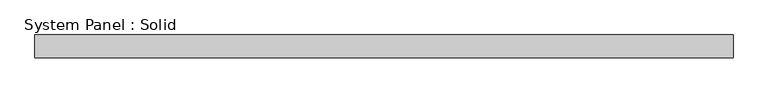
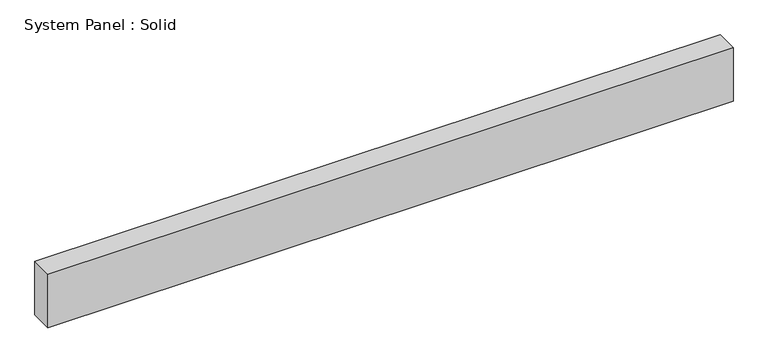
"""IFC4 building model written with IfcOpenShell, lengths in millimetres: plate geometry, System Panel : Solid."""

from ifc_helpers import new_model, si_unit, origin, origin_with_axes, place, context, project, spatial, polyline, outline, extrude, source, transform, mapped, element, save


def system_panel_solid_b400a1e7(model_context):
    return source(origin(), model_context, "Body", "SweptSolid", [
        extrude(outline(polyline([(908.5889212, -10.5), (-908.5889212, -10.5), (-908.5889212, 49.5), (908.5889212, 49.5), (908.5889212, -10.5)])), origin_with_axes(), (0.0, 0.0, 1.0), 150.0),
    ])


if __name__ == "__main__":
    model = new_model("IFC4")
    model_context = context("Model", 3, world=origin())
    ifc_project = project(units=[si_unit("LENGTHUNIT", "METRE", prefix="MILLI")], contexts=[model_context])
    site = spatial("IfcSite", under=ifc_project)
    building = spatial("IfcBuilding", under=site)
    placement = place(None, origin())
    system_panel_solid_shape = system_panel_solid_b400a1e7(model_context)
    element("IfcPlate", 1, ObjectType="System Panel : Solid", at=placement, inside=building, context=model_context, shape_type="MappedRepresentation", body=[
        mapped(system_panel_solid_shape, transform((0.0, 0.0, 0.0), x_axis=(1.0, 0.0, 0.0), y_axis=(0.0, 1.0, 0.0), z_axis=(0.0, 0.0, 1.0))),
    ])
    save(model, "model.ifc")
